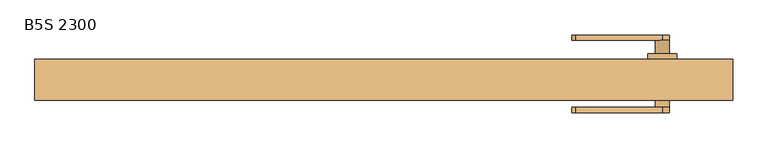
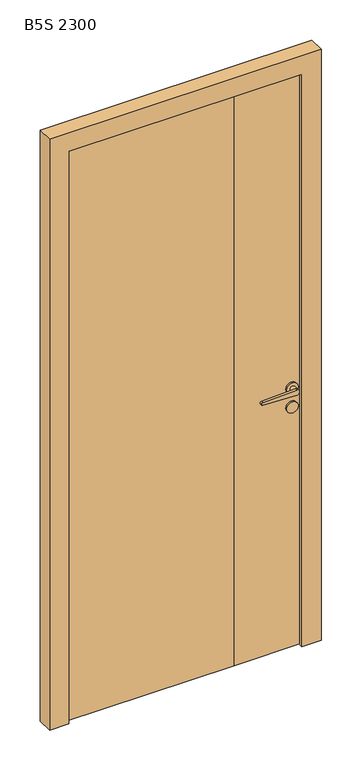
"""IFC4 building model written with IfcOpenShell, lengths in millimetres: door geometry, Mobiliário_Mobiliário de Escritório_Porta de Giro Emoldurada - BS_Marelli : B5S 2300."""

import ifcopenshell
import ifcopenshell.guid

model = None  # the IFC model being written
_history = None  # IfcOwnerHistory: only IFC2X3 demands one
_inside = {}  # id of a spatial element -> (the spatial element, [elements in it])
_under = {}  # id of a project, library or spatial element -> (it, [spatial elements below it])
_declared = {}  # id of a project -> (the project, [libraries it declares])
_typed = {}  # id of a type object -> (the type object, [elements of that type])
_made_of = {}  # id of a material, layer set ... -> (it, [elements and type objects made of it])


def new_model(schema):
    """Start an empty IFC model of exactly this schema.

    Asked for "IFC4X3", IfcOpenShell would pick the latest addendum, in which some entities
    have other attributes; the version numbers below select the first issue.
    IFC2X3 requires an IfcOwnerHistory on every rooted entity: one is made here for all.
    """
    global model, _history
    if schema == "IFC4X3":
        model = ifcopenshell.file(schema_version=(4, 3, 0, 0))
    else:
        model = ifcopenshell.file(schema=schema)
    _inside.clear()
    _under.clear()
    _declared.clear()
    _typed.clear()
    _made_of.clear()
    _history = None
    if model.schema == "IFC2X3":
        org = make("IfcOrganization", Name="unknown")
        user = make(
            "IfcPersonAndOrganization",
            ThePerson=make("IfcPerson", FamilyName="unknown"),
            TheOrganization=org,
        )
        app = make(
            "IfcApplication",
            ApplicationDeveloper=org,
            Version="unknown",
            ApplicationFullName="unknown",
            ApplicationIdentifier="unknown",
        )
        _history = make(
            "IfcOwnerHistory",
            OwningUser=user,
            OwningApplication=app,
            ChangeAction="ADDED",
            CreationDate=0,
        )
    return model


def make(cls, **values):
    """One entity of the class cls with the attributes given. An attribute that is None is left unset."""
    return model.create_entity(
        cls, **{name: value for name, value in values.items() if value is not None}
    )


def rooted(cls, **values):
    """An entity with a GlobalId (a new one), such as an element, a storey or a relation."""
    return make(cls, GlobalId=ifcopenshell.guid.new(), OwnerHistory=_history, **values)


def si_unit(unit_type, name, prefix=None):
    """IfcSIUnit, for example si_unit("LENGTHUNIT", "METRE", prefix="MILLI")."""
    return make("IfcSIUnit", UnitType=unit_type, Prefix=prefix, Name=name)


def assignment(units):
    """IfcUnitAssignment: the units of a project."""
    return None if units is None else make("IfcUnitAssignment", Units=units)


def point(xyz):
    """IfcCartesianPoint."""
    return None if xyz is None else make("IfcCartesianPoint", Coordinates=xyz)


def direction(xyz):
    """IfcDirection."""
    return None if xyz is None else make("IfcDirection", DirectionRatios=xyz)


def frame(location, z_axis=None, x_axis=None):
    """IfcAxis2Placement3D, a coordinate frame: its origin and axes. An axis left out is left unset."""
    return make(
        "IfcAxis2Placement3D",
        Location=point(location),
        Axis=direction(z_axis),
        RefDirection=direction(x_axis),
    )


def frame_2d(location, x_axis=None):
    """IfcAxis2Placement2D, a coordinate frame in the plane: its origin and x axis."""
    return make(
        "IfcAxis2Placement2D", Location=point(location), RefDirection=direction(x_axis)
    )


def origin():
    """The frame at (0, 0, 0) with its axes left unset."""
    return frame((0.0, 0.0, 0.0))


def place(relative_to, where):
    """IfcLocalPlacement: puts the frame where relative to a parent placement (None: the world)."""
    return make(
        "IfcLocalPlacement", PlacementRelTo=relative_to, RelativePlacement=where
    )


def context(
    kind, dimensions, precision=None, world=None, true_north=None, identifier=None
):
    """IfcGeometricRepresentationContext, for example the 3D "Model" context."""
    return make(
        "IfcGeometricRepresentationContext",
        ContextIdentifier=identifier,
        ContextType=kind,
        CoordinateSpaceDimension=dimensions,
        Precision=precision,
        WorldCoordinateSystem=world,
        TrueNorth=true_north,
    )


def project(units=None, contexts=None):
    """IfcProject with its units and contexts."""
    return rooted(
        "IfcProject",
        Name="project",
        RepresentationContexts=contexts,
        UnitsInContext=assignment(units),
    )


def spatial(cls, under=None, at=None, **own):
    """A site, building, storey or space (cls), placed at a placement, below another one or the project."""
    s = rooted(cls, ObjectPlacement=at, **own)
    if under is not None:
        _under.setdefault(under.id(), (under, []))[1].append(s)
    return s


def polyline(points):
    """IfcPolyline through the points."""
    return make("IfcPolyline", Points=[point(p) for p in points])


def circle_curve(where, radius):
    """IfcCircle in the frame where."""
    return make("IfcCircle", Position=where, Radius=radius)


def trimmed(basis, trim1, trim2, sense, master):
    """IfcTrimmedCurve: the piece of a basis curve between two trims."""
    return make(
        "IfcTrimmedCurve",
        BasisCurve=basis,
        Trim1=trim1,
        Trim2=trim2,
        SenseAgreement=sense,
        MasterRepresentation=master,
    )


def segment(curve, same_sense, transition):
    """IfcCompositeCurveSegment."""
    return make(
        "IfcCompositeCurveSegment",
        Transition=transition,
        SameSense=same_sense,
        ParentCurve=curve,
    )


def composite_curve(segments, self_intersect=None):
    """IfcCompositeCurve: segments joined end to end."""
    return make("IfcCompositeCurve", Segments=segments, SelfIntersect=self_intersect)


def outline(outer, holes=None, kind="AREA"):
    """IfcArbitraryClosedProfileDef: a profile drawn as a closed curve; with holes, ...WithVoids."""
    if holes is None:
        return make("IfcArbitraryClosedProfileDef", ProfileType=kind, OuterCurve=outer)
    return make(
        "IfcArbitraryProfileDefWithVoids",
        ProfileType=kind,
        OuterCurve=outer,
        InnerCurves=holes,
    )


def extrude(swept, where, along, depth):
    """IfcExtrudedAreaSolid: the profile swept, set in the frame where, extruded along a direction by depth."""
    return make(
        "IfcExtrudedAreaSolid",
        SweptArea=swept,
        Position=where,
        ExtrudedDirection=direction(along),
        Depth=depth,
    )


def faces_of(points, faces, orient=None, outer=None):
    """IfcFace entities. A face is a list of loops; a loop is a list of indices into points, from 0.

    orient and outer hold one flag for each loop. By default every Orientation is true, the
    first loop of a face is its IfcFaceOuterBound and the others are IfcFaceBound.
    """
    made = []
    for i, loops in enumerate(faces):
        bounds = []
        for j, loop in enumerate(loops):
            is_outer = j == 0 if outer is None else outer[i][j]
            bounds.append(
                make(
                    "IfcFaceOuterBound" if is_outer else "IfcFaceBound",
                    Bound=make("IfcPolyLoop", Polygon=[points[k] for k in loop]),
                    Orientation=True if orient is None else orient[i][j],
                )
            )
        made.append(make("IfcFace", Bounds=bounds))
    return made


def faceted_brep(points, faces, orient=None, outer=None, voids=None):
    """IfcFacetedBrep: a solid bounded by flat faces; with voids (closed shells), ...WithVoids."""
    shared = [point(p) for p in points]
    hull = make("IfcClosedShell", CfsFaces=faces_of(shared, faces, orient, outer))
    if voids is None:
        return make("IfcFacetedBrep", Outer=hull)
    return make(
        "IfcFacetedBrepWithVoids",
        Outer=hull,
        Voids=[
            make(cls, CfsFaces=faces_of(shared, fs, o, b)) for cls, fs, o, b in voids
        ],
    )


def shape(context_of_items, identifier, shape_type, items):
    """IfcShapeRepresentation: the items that make up one representation, for example the "Body"."""
    return make(
        "IfcShapeRepresentation",
        ContextOfItems=context_of_items,
        RepresentationIdentifier=identifier,
        RepresentationType=shape_type,
        Items=items,
    )


def source(mapping_origin, context_of_items, identifier, shape_type, items):
    """IfcRepresentationMap: a shape defined once, which mapped items show again and again."""
    return make(
        "IfcRepresentationMap",
        MappingOrigin=mapping_origin,
        MappedRepresentation=shape(context_of_items, identifier, shape_type, items),
    )


def transform(
    local_origin,
    x_axis=None,
    y_axis=None,
    z_axis=None,
    scale=None,
    scale2=None,
    scale3=None,
    uniform=True,
):
    """IfcCartesianTransformationOperator3D, or its non-uniform kind. x_axis, y_axis, z_axis: its Axis1, 2, 3."""
    if uniform:
        return make(
            "IfcCartesianTransformationOperator3D",
            Axis1=direction(x_axis),
            Axis2=direction(y_axis),
            LocalOrigin=point(local_origin),
            Scale=scale,
            Axis3=direction(z_axis),
        )
    return make(
        "IfcCartesianTransformationOperator3DnonUniform",
        Axis1=direction(x_axis),
        Axis2=direction(y_axis),
        LocalOrigin=point(local_origin),
        Scale=scale,
        Axis3=direction(z_axis),
        Scale2=scale2,
        Scale3=scale3,
    )


def mapped(mapping_source, mapping_target):
    """IfcMappedItem: shows the shape of a source again, moved by a transform."""
    return make(
        "IfcMappedItem", MappingSource=mapping_source, MappingTarget=mapping_target
    )


def made_of(thing, what):
    """Note that an element or type object is made of a material, layer set ...; save() writes the relation."""
    if what is not None:
        _made_of.setdefault(what.id(), (what, []))[1].append(thing)
    return thing


def element(
    cls,
    number,
    at=None,
    inside=None,
    cuts=None,
    type_object=None,
    material=None,
    context=None,
    identifier="Body",
    shape_type=None,
    held_by="IfcProductDefinitionShape",
    body=None,
    shapes=None,
    **own,
):
    """One element of the class cls, such as IfcWall. Its Tag is "e" and its number.

    at: its placement. inside: the storey or other place that contains it. cuts: it is an
    opening in that element (IfcRelVoidsElement). A single representation is given by context,
    identifier, shape_type and body (its items); several are given by shapes. held_by: the class
    of the entity that holds the representations. save() writes the other relations.
    """
    e = rooted(cls, Tag="e%d" % number, ObjectPlacement=at, **own)
    if body is not None:
        shapes = [shape(context, identifier, shape_type, body)]
    if shapes is not None:
        e.Representation = make(held_by, Representations=shapes)
    if inside is not None:
        _inside.setdefault(inside.id(), (inside, []))[1].append(e)
    if cuts is not None:
        rooted(
            "IfcRelVoidsElement", RelatingBuildingElement=cuts, RelatedOpeningElement=e
        )
    if type_object is not None:
        _typed.setdefault(type_object.id(), (type_object, []))[1].append(e)
    return made_of(e, material)


def aggregate(whole, parts):
    """IfcRelAggregates: a whole, such as a stair, and the parts it consists of."""
    return rooted("IfcRelAggregates", RelatingObject=whole, RelatedObjects=parts)


def save(model, path):
    """Write the relations noted so far, then the file.

    IfcRelAggregates (storeys below a building ...), IfcRelContainedInSpatialStructure (elements
    in a storey), IfcRelDefinesByType, IfcRelAssociatesMaterial and IfcRelDeclares: one each for
    every whole, place, type object, material and project.
    """
    for whole, parts in _under.values():
        aggregate(whole, parts)
    for where, things in _inside.values():
        rooted(
            "IfcRelContainedInSpatialStructure",
            RelatedElements=things,
            RelatingStructure=where,
        )
    for kind, things in _typed.values():
        rooted("IfcRelDefinesByType", RelatedObjects=things, RelatingType=kind)
    for what, things in _made_of.values():
        rooted("IfcRelAssociatesMaterial", RelatedObjects=things, RelatingMaterial=what)
    for by, libraries in _declared.values():
        rooted("IfcRelDeclares", RelatingContext=by, RelatedDefinitions=libraries)
    model.write(path)


def plane_surface(at):
    """IfcPlane: the flat surface through the origin of the frame at, square to its z axis."""
    return make("IfcPlane", Position=at)


def cylinder_surface(at, radius):
    """IfcCylindricalSurface: all points at the distance radius from the z axis of the frame at."""
    return make("IfcCylindricalSurface", Position=at, Radius=radius)


def advanced_brep(points, edges, surfaces, faces):
    """IfcAdvancedBrep: a solid bounded by faces that lie on surfaces and meet in shared edges.

    An edge is (start, end): straight between two places in points (the first is 0);
    or (start, end, curve); or (start, end, curve, False) where it runs against its curve.
    A face is (place in surfaces, loops), or (place, loops, False) where it looks against
    its surface's normal. A loop lists edges by number (the first is 1), with a minus sign
    where the edge is run from its end to its start. The first loop is the outer one.
    """
    corners = [point(p) for p in points]
    vertices = [make("IfcVertexPoint", VertexGeometry=c) for c in corners]
    made = []
    for start, end, *more in edges:
        made.append(
            make(
                "IfcEdgeCurve",
                EdgeStart=vertices[start],
                EdgeEnd=vertices[end],
                EdgeGeometry=more[0] if more else make("IfcPolyline", Points=[corners[start], corners[end]]),
                SameSense=more[1] if len(more) > 1 else True,
            )
        )
    hull = []
    for where, loops, *sense in faces:
        bounds = []
        for j, loop in enumerate(loops):
            ring = [make("IfcOrientedEdge", EdgeElement=made[abs(k) - 1], Orientation=k > 0) for k in loop]
            bounds.append(
                make(
                    "IfcFaceOuterBound" if j == 0 else "IfcFaceBound",
                    Bound=make("IfcEdgeLoop", EdgeList=ring),
                    Orientation=True,
                )
            )
        hull.append(make("IfcAdvancedFace", Bounds=bounds, FaceSurface=surfaces[where], SameSense=sense[0] if sense else True))
    return make("IfcAdvancedBrep", Outer=make("IfcClosedShell", CfsFaces=hull))


def b5s_2300_fc662f62(model_context):
    return source(origin(), model_context, "Body", "SolidModel", [
        extrude(outline(polyline([(-447.5, 16.5), (152.5, 16.5), (447.5, 16.5), (447.5, -25.5), (190.5, -25.5), (-447.5, -25.5), (-447.5, 16.5)])), frame((0.0, 0.0, 0.2), z_axis=(0.0, 0.0, 1.0), x_axis=(1.0, 0.0, 0.0)), (0.0, 0.0, 1.0), 2248.3),
        faceted_brep([(-500.0, -42.5, 0.0), (-500.0, 16.5, 0.0), (-450.0, 16.5, 0.0), (-450.0, -27.0, 0.0), (-429.0, -27.0, 0.0), (-429.0, -42.5, 0.0), (500.0, -42.5, 0.0), (429.0, -42.5, 0.0), (429.0, -27.0, 0.0), (450.0, -27.0, 0.0), (450.0, 16.5, 0.0), (500.0, 16.5, 0.0), (-500.0, -42.5, 2300.0), (-500.0, 16.5, 2300.0), (500.0, 16.5, 2300.0), (450.0, 16.5, 2250.0), (-450.0, 16.5, 2250.0), (-450.0, -27.0, 2250.0), (450.0, -27.0, 2250.0), (429.0, -27.0, 2229.0), (-429.0, -27.0, 2229.0), (-429.0, -42.5, 2229.0), (500.0, -42.5, 2300.0), (429.0, -42.5, 2229.0)], [[[0, 1, 2, 3, 4, 5]], [[6, 7, 8, 9, 10, 11]], [[0, 12, 13, 1]], [[13, 14, 11, 10, 15, 16, 2, 1]], [[17, 3, 2, 16]], [[4, 3, 17, 18, 9, 8, 19, 20]], [[5, 4, 20, 21]], [[22, 12, 0, 5, 21, 23, 7, 6]], [[8, 7, 23, 19]], [[10, 9, 18, 15]], [[14, 22, 6, 11]], [[22, 14, 13, 12]], [[20, 19, 23, 21]], [[16, 15, 18, 17]]]),
        extrude(outline(composite_curve([segment(trimmed(circle_curve(frame_2d((936.55, 399.5)), 20.75), [point((936.55, 378.75))], [point((936.55, 420.25))], False, "CARTESIAN"), True, "CONTINUOUS"), segment(trimmed(circle_curve(frame_2d((936.55, 399.5)), 20.75), [point((936.55, 420.25))], [point((936.55, 378.75))], False, "CARTESIAN"), True, "CONTINUOUS")], self_intersect=False)), frame((0.0, 16.5, 0.0), z_axis=(0.0, 1.0, 0.0), x_axis=(0.0, 0.0, 1.0)), (0.0, 0.0, 1.0), 8.0),
        extrude(outline(composite_curve([segment(trimmed(circle_curve(frame_2d((936.55, 399.5)), 20.75), [point((936.55, 378.75))], [point((936.55, 420.25))], False, "CARTESIAN"), True, "CONTINUOUS"), segment(trimmed(circle_curve(frame_2d((936.55, 399.5)), 20.75), [point((936.55, 420.25))], [point((936.55, 378.75))], False, "CARTESIAN"), True, "CONTINUOUS")], self_intersect=False)), frame((0.0, -33.5, 0.0), z_axis=(0.0, 1.0, 0.0), x_axis=(0.0, 0.0, 1.0)), (0.0, 0.0, 1.0), 8.0),
        extrude(outline(composite_curve([segment(trimmed(circle_curve(frame_2d((1010.25, 399.5)), 20.75), [point((1010.25, 378.75))], [point((1010.25, 420.25))], False, "CARTESIAN"), True, "CONTINUOUS"), segment(trimmed(circle_curve(frame_2d((1010.25, 399.5)), 20.75), [point((1010.25, 420.25))], [point((1010.25, 378.75))], False, "CARTESIAN"), True, "CONTINUOUS")], self_intersect=False)), frame((0.0, -33.5, 0.0), z_axis=(0.0, 1.0, 0.0), x_axis=(0.0, 0.0, 1.0)), (0.0, 0.0, 1.0), 8.0),
        extrude(outline(composite_curve([segment(trimmed(circle_curve(frame_2d((1010.25, 399.5)), 20.75), [point((1010.25, 378.75))], [point((1010.25, 420.25))], False, "CARTESIAN"), True, "CONTINUOUS"), segment(trimmed(circle_curve(frame_2d((1010.25, 399.5)), 20.75), [point((1010.25, 420.25))], [point((1010.25, 378.75))], False, "CARTESIAN"), True, "CONTINUOUS")], self_intersect=False)), frame((0.0, 16.5, 0.0), z_axis=(0.0, 1.0, 0.0), x_axis=(0.0, 0.0, 1.0)), (0.0, 0.0, 1.0), 8.0),
        advanced_brep(
        [(389.5, 24.5, 1010.25), (409.5, 24.5, 1010.25), (409.5, 43.5, 1010.25), (399.0996794, 43.5, 1020.241984), (389.5, 43.5, 1010.25), (399.0996794, 43.5, 1000.258016), (274.5, 43.5, 1015.25), (274.5, 43.5, 1005.25), (399.0996794, 51.15, 1000.258016), (274.5, 51.15, 1005.25), (274.5, 51.15, 1015.25), (399.0996794, 51.15, 1020.241984)],
        [
            (0, 1, circle_curve(frame((399.5, 24.5, 1010.25), z_axis=(0.0, -1.0, 0.0), x_axis=(1.0, 0.0, 0.0)), 10.0)),
            (1, 0, circle_curve(frame((399.5, 24.5, 1010.25), z_axis=(0.0, -1.0, 0.0), x_axis=(1.0, 0.0, 0.0)), 10.0)),
            (1, 2),
            (2, 3, circle_curve(frame((399.5, 43.5, 1010.25), z_axis=(0.0, -1.0, 0.0), x_axis=(1.0, 0.0, 0.0)), 10.0)),
            (3, 4, circle_curve(frame((399.5, 43.5, 1010.25), z_axis=(0.0, -1.0, 0.0), x_axis=(1.0, 0.0, 0.0)), 10.0)),
            (4, 0),
            (4, 5, circle_curve(frame((399.5, 43.5, 1010.25), z_axis=(0.0, -1.0, 0.0), x_axis=(1.0, 0.0, 0.0)), 10.0)),
            (5, 2, circle_curve(frame((399.5, 43.5, 1010.25), z_axis=(0.0, -1.0, 0.0), x_axis=(1.0, 0.0, 0.0)), 10.0)),
            (3, 6),
            (6, 7, circle_curve(frame((274.5, 43.5, 1010.25), z_axis=(0.0, -1.0, 0.0), x_axis=(1.0, 0.0, 0.0)), 5.0)),
            (7, 5),
            (8, 9),
            (9, 10, circle_curve(frame((274.5, 51.15, 1010.25), z_axis=(0.0, 1.0, 0.0), x_axis=(1.0, 0.0, 0.0)), 5.0)),
            (10, 11),
            (11, 8, circle_curve(frame((399.5, 51.15, 1010.25), z_axis=(0.0, 1.0, 0.0), x_axis=(1.0, 0.0, 0.0)), 10.0)),
            (7, 9),
            (8, 5),
            (6, 10),
            (3, 11),
        ],
        [
            plane_surface(frame((409.5, 24.5, 1010.25), z_axis=(0.0, -1.0, 0.0), x_axis=(0.0, 0.0, 1.0))),
            cylinder_surface(frame((399.5, 24.5, 1010.25), z_axis=(0.0, 1.0, 0.0), x_axis=(1.0, 0.0, 0.0)), 10.0),
            plane_surface(frame((399.0996794, 43.5, 1000.258016), z_axis=(0.0, -1.0, 0.0), x_axis=(0.9991983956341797, 0.0, -0.04003206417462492))),
            plane_surface(frame((399.0996794, 51.15, 1000.258016), z_axis=(0.0, 1.0, 0.0), x_axis=(-0.9991983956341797, 0.0, 0.04003206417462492))),
            plane_surface(frame((399.0996794, 51.15, 1000.258016), z_axis=(-0.04003206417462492, 0.0, -0.9991983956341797), x_axis=(0.0, -1.0, 0.0))),
            cylinder_surface(frame((274.5, 43.5, 1010.25), z_axis=(0.0, 1.0, 0.0), x_axis=(1.0, 0.0, 0.0)), 5.0),
            plane_surface(frame((274.5, 51.15, 1015.25), z_axis=(-0.04003206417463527, 0.0, 0.9991983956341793), x_axis=(0.0, -1.0, 0.0))),
            cylinder_surface(frame((399.5, 43.5, 1010.25), z_axis=(0.0, 1.0, 0.0), x_axis=(1.0, 0.0, 0.0)), 10.0),
        ],
        [
            (0, [[1, 2]]),
            (1, [[-2, 3, 4, 5, 6]]),
            (1, [[-1, -6, 7, 8, -3]]),
            (2, [[9, 10, 11, -7, -5]]),
            (3, [[12, 13, 14, 15]]),
            (4, [[-11, 16, -12, 17]]),
            (5, [[-10, 18, -13, -16]]),
            (6, [[-9, 19, -14, -18]]),
            (7, [[-15, -19, -4, -8, -17]]),
        ],
    ),
        advanced_brep(
        [(399.0996794, -52.5, 1000.258016), (274.5, -52.5, 1005.25), (274.5, -52.5, 1015.25), (399.0996794, -52.5, 1020.241984), (389.5, -52.5, 1010.25), (399.0996794, -60.15, 1000.258016), (399.0996794, -60.15, 1020.241984), (274.5, -60.15, 1015.25), (274.5, -60.15, 1005.25), (409.5, -52.5, 1010.25), (389.5, -33.5, 1010.25), (409.5, -33.5, 1010.25)],
        [
            (0, 1),
            (1, 2, circle_curve(frame((274.5, -52.5, 1010.25), z_axis=(0.0, 1.0, 0.0), x_axis=(1.0, 0.0, 0.0)), 5.0)),
            (2, 3),
            (3, 4, circle_curve(frame((399.5, -52.5, 1010.25), z_axis=(0.0, -1.0, 0.0), x_axis=(1.0, 0.0, 0.0)), 10.0)),
            (4, 0, circle_curve(frame((399.5, -52.5, 1010.25), z_axis=(0.0, -1.0, 0.0), x_axis=(1.0, 0.0, 0.0)), 10.0)),
            (5, 6, circle_curve(frame((399.5, -60.15, 1010.25), z_axis=(0.0, -1.0, 0.0), x_axis=(1.0, 0.0, 0.0)), 10.0)),
            (6, 7),
            (7, 8, circle_curve(frame((274.5, -60.15, 1010.25), z_axis=(0.0, -1.0, 0.0), x_axis=(1.0, 0.0, 0.0)), 5.0)),
            (8, 5),
            (0, 5),
            (8, 1),
            (7, 2),
            (6, 3),
            (0, 9, circle_curve(frame((399.5, -52.5, 1010.25), z_axis=(0.0, -1.0, 0.0), x_axis=(1.0, 0.0, 0.0)), 10.0)),
            (9, 3, circle_curve(frame((399.5, -52.5, 1010.25), z_axis=(0.0, -1.0, 0.0), x_axis=(1.0, 0.0, 0.0)), 10.0)),
            (10, 11, circle_curve(frame((399.5, -33.5, 1010.25), z_axis=(0.0, 1.0, 0.0), x_axis=(1.0, 0.0, 0.0)), 10.0)),
            (11, 10, circle_curve(frame((399.5, -33.5, 1010.25), z_axis=(0.0, 1.0, 0.0), x_axis=(1.0, 0.0, 0.0)), 10.0)),
            (10, 4),
            (9, 11),
        ],
        [
            plane_surface(frame((409.5, -52.5, 1010.25), z_axis=(0.0, 1.0, 0.0), x_axis=(0.0, 0.0, -1.0))),
            plane_surface(frame((409.5, -60.15, 1010.25), z_axis=(0.0, -1.0, 0.0), x_axis=(0.0, 0.0, 1.0))),
            plane_surface(frame((274.5, -60.15, 1005.25), z_axis=(-0.04003206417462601, 0.0, -0.9991983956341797), x_axis=(0.0, 1.0, 0.0))),
            cylinder_surface(frame((274.5, -52.5, 1010.25), z_axis=(0.0, -1.0, 0.0), x_axis=(1.0, 0.0, 0.0)), 5.0),
            plane_surface(frame((399.0996794, -60.15, 1020.241984), z_axis=(-0.04003206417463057, 0.0, 0.9991983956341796), x_axis=(0.0, 1.0, 0.0))),
            cylinder_surface(frame((399.5, -52.5, 1010.25), z_axis=(0.0, -1.0, 0.0), x_axis=(1.0, 0.0, 0.0)), 10.0),
            plane_surface(frame((409.5, -33.5, 1010.25), z_axis=(0.0, 1.0, 0.0), x_axis=(0.0, 0.0, -1.0))),
            cylinder_surface(frame((399.5, -33.5, 1010.25), z_axis=(0.0, -1.0, 0.0), x_axis=(1.0, 0.0, 0.0)), 10.0),
        ],
        [
            (0, [[1, 2, 3, 4, 5]]),
            (1, [[6, 7, 8, 9]]),
            (2, [[-1, 10, -9, 11]]),
            (3, [[-2, -11, -8, 12]]),
            (4, [[-3, -12, -7, 13]]),
            (5, [[-6, -10, 14, 15, -13]]),
            (6, [[16, 17]]),
            (7, [[-16, 18, -4, -15, 19]]),
            (7, [[-17, -19, -14, -5, -18]]),
        ],
    ),
    ])


if __name__ == "__main__":
    model = new_model("IFC4")
    model_context = context("Model", 3, world=origin())
    ifc_project = project(units=[si_unit("LENGTHUNIT", "METRE", prefix="MILLI")], contexts=[model_context])
    site = spatial("IfcSite", under=ifc_project)
    building = spatial("IfcBuilding", under=site)
    placement = place(None, origin())
    b5s_2300_shape = b5s_2300_fc662f62(model_context)
    element("IfcDoor", 1, ObjectType="Mobiliário_Mobiliário de Escritório_Porta de Giro Emoldurada - BS_Marelli : B5S 2300", at=placement, inside=building, context=model_context, shape_type="MappedRepresentation", body=[
        mapped(b5s_2300_shape, transform((0.0, 0.0, 0.0), x_axis=(1.0, 0.0, 0.0), y_axis=(0.0, 1.0, 0.0), z_axis=(0.0, 0.0, 1.0))),
    ])
    save(model, "model.ifc")
